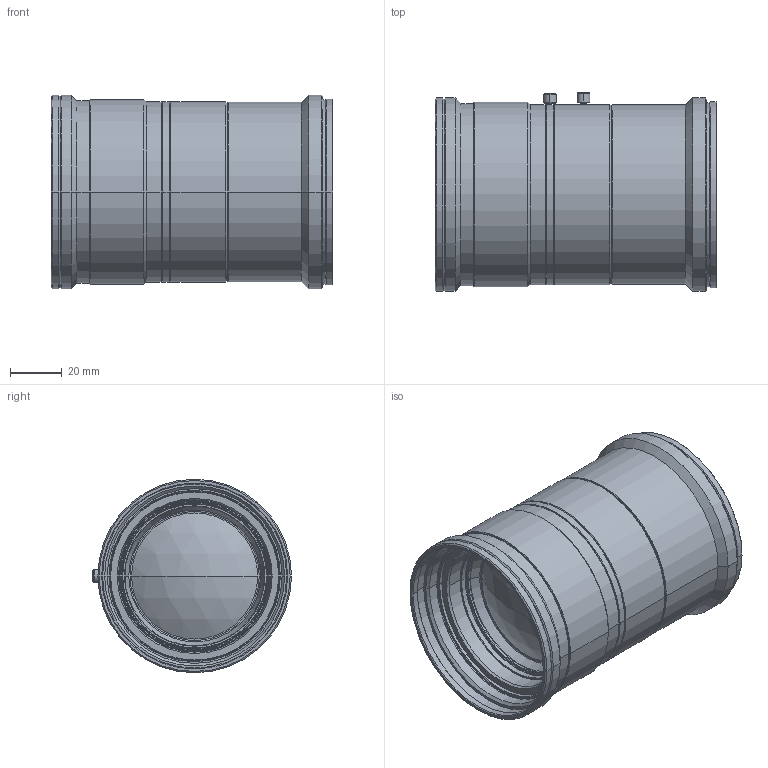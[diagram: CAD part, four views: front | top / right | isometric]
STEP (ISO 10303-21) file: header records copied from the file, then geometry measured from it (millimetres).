
FILE_DESCRIPTION (( 'STEP AP203' ), '1' );
FILE_NAME ('VS-L8528_M72.STEP', '2016-08-18T04:51:12', ( '' ), ( '' ), 'SwSTEP 2.0', 'SolidWorks 2016', '' );
FILE_SCHEMA (( 'CONFIG_CONTROL_DESIGN' ));
Length unit declared in the file: millimetre
Products named in the file (1): VS-L8528_M72
Bounding box: 109.2 x 77.05 x 75 mm (x, y, z)
Volume: 234666.1 mm3; surface area: 56473.8 mm2
Topology: 1 solids, 1 shells, 218 faces, 440 edges, 254 vertices
Faces by surface type: cone 108, cylinder 74, plane 32, sphere 4
Entity records: 5773 total; most frequent: DIRECTION 1118, CARTESIAN_POINT 977, ORIENTED_EDGE 880, AXIS2_PLACEMENT_3D 467, EDGE_CURVE 440, VERTEX_POINT 254, EDGE_LOOP 248, CIRCLE 248
